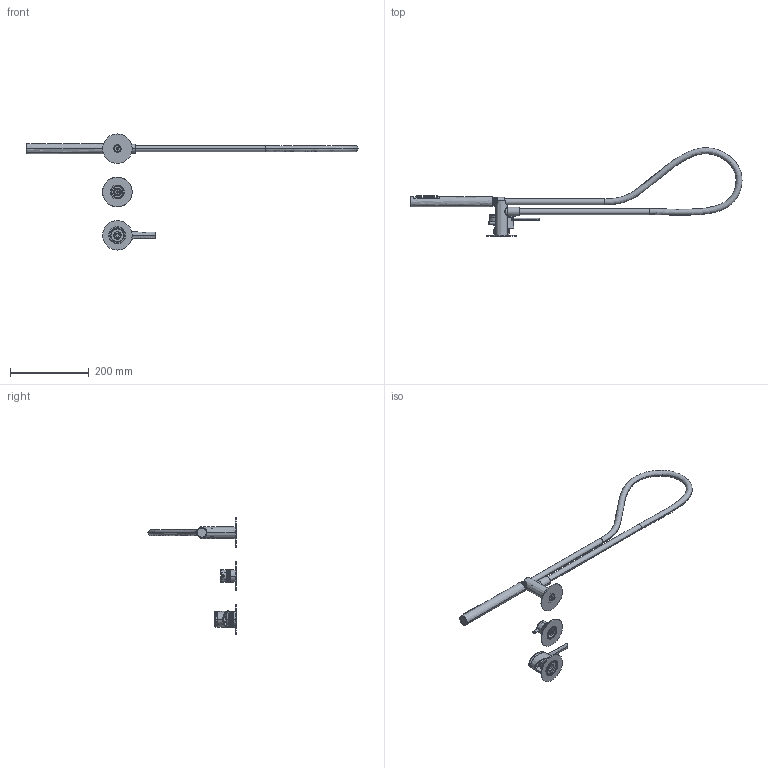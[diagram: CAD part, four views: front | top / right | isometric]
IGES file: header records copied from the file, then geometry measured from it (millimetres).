
Start section:  PTC IGES file: 58559V2.igs
Global section: file name: 58559V2.igs; native system: Creo Parametric by PTC Inc.; preprocessor: 2022014; author: carloff; organization: Unknown; date: 20250108.155956; units: millimetre
Bounding box: 842.91 x 223.99 x 295 mm (x, y, z)
Surface area: 200439.6 mm2 (no closed solid volume)
Topology: 0 solids, 0 shells, 1490 faces, 7604 edges, 7578 vertices
Faces by surface type: revolution 960, bspline 530
